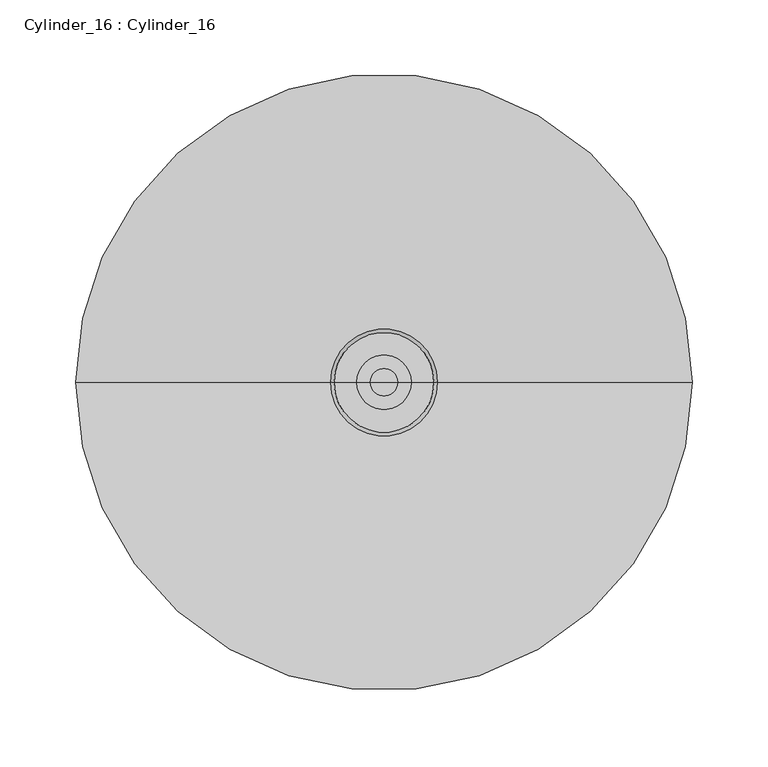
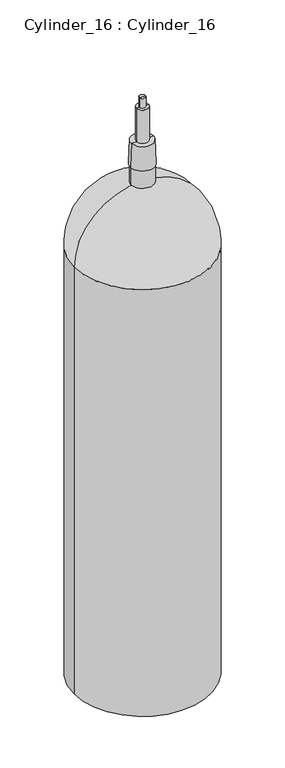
"""IFC4 building model written with IfcOpenShell, lengths in millimetres: alarm geometry, Cylinder_16 : Cylinder_16."""

import ifcopenshell
import ifcopenshell.guid

model = None  # the IFC model being written
_history = None  # IfcOwnerHistory: only IFC2X3 demands one
_inside = {}  # id of a spatial element -> (the spatial element, [elements in it])
_under = {}  # id of a project, library or spatial element -> (it, [spatial elements below it])
_declared = {}  # id of a project -> (the project, [libraries it declares])
_typed = {}  # id of a type object -> (the type object, [elements of that type])
_made_of = {}  # id of a material, layer set ... -> (it, [elements and type objects made of it])


def new_model(schema):
    """Start an empty IFC model of exactly this schema.

    Asked for "IFC4X3", IfcOpenShell would pick the latest addendum, in which some entities
    have other attributes; the version numbers below select the first issue.
    IFC2X3 requires an IfcOwnerHistory on every rooted entity: one is made here for all.
    """
    global model, _history
    if schema == "IFC4X3":
        model = ifcopenshell.file(schema_version=(4, 3, 0, 0))
    else:
        model = ifcopenshell.file(schema=schema)
    _inside.clear()
    _under.clear()
    _declared.clear()
    _typed.clear()
    _made_of.clear()
    _history = None
    if model.schema == "IFC2X3":
        org = make("IfcOrganization", Name="unknown")
        user = make(
            "IfcPersonAndOrganization",
            ThePerson=make("IfcPerson", FamilyName="unknown"),
            TheOrganization=org,
        )
        app = make(
            "IfcApplication",
            ApplicationDeveloper=org,
            Version="unknown",
            ApplicationFullName="unknown",
            ApplicationIdentifier="unknown",
        )
        _history = make(
            "IfcOwnerHistory",
            OwningUser=user,
            OwningApplication=app,
            ChangeAction="ADDED",
            CreationDate=0,
        )
    return model


def make(cls, **values):
    """One entity of the class cls with the attributes given. An attribute that is None is left unset."""
    return model.create_entity(
        cls, **{name: value for name, value in values.items() if value is not None}
    )


def rooted(cls, **values):
    """An entity with a GlobalId (a new one), such as an element, a storey or a relation."""
    return make(cls, GlobalId=ifcopenshell.guid.new(), OwnerHistory=_history, **values)


def si_unit(unit_type, name, prefix=None):
    """IfcSIUnit, for example si_unit("LENGTHUNIT", "METRE", prefix="MILLI")."""
    return make("IfcSIUnit", UnitType=unit_type, Prefix=prefix, Name=name)


def assignment(units):
    """IfcUnitAssignment: the units of a project."""
    return None if units is None else make("IfcUnitAssignment", Units=units)


def point(xyz):
    """IfcCartesianPoint."""
    return None if xyz is None else make("IfcCartesianPoint", Coordinates=xyz)


def direction(xyz):
    """IfcDirection."""
    return None if xyz is None else make("IfcDirection", DirectionRatios=xyz)


def frame(location, z_axis=None, x_axis=None):
    """IfcAxis2Placement3D, a coordinate frame: its origin and axes. An axis left out is left unset."""
    return make(
        "IfcAxis2Placement3D",
        Location=point(location),
        Axis=direction(z_axis),
        RefDirection=direction(x_axis),
    )


def origin():
    """The frame at (0, 0, 0) with its axes left unset."""
    return frame((0.0, 0.0, 0.0))


def place(relative_to, where):
    """IfcLocalPlacement: puts the frame where relative to a parent placement (None: the world)."""
    return make(
        "IfcLocalPlacement", PlacementRelTo=relative_to, RelativePlacement=where
    )


def context(
    kind, dimensions, precision=None, world=None, true_north=None, identifier=None
):
    """IfcGeometricRepresentationContext, for example the 3D "Model" context."""
    return make(
        "IfcGeometricRepresentationContext",
        ContextIdentifier=identifier,
        ContextType=kind,
        CoordinateSpaceDimension=dimensions,
        Precision=precision,
        WorldCoordinateSystem=world,
        TrueNorth=true_north,
    )


def project(units=None, contexts=None):
    """IfcProject with its units and contexts."""
    return rooted(
        "IfcProject",
        Name="project",
        RepresentationContexts=contexts,
        UnitsInContext=assignment(units),
    )


def spatial(cls, under=None, at=None, **own):
    """A site, building, storey or space (cls), placed at a placement, below another one or the project."""
    s = rooted(cls, ObjectPlacement=at, **own)
    if under is not None:
        _under.setdefault(under.id(), (under, []))[1].append(s)
    return s


def polyline(points):
    """IfcPolyline through the points."""
    return make("IfcPolyline", Points=[point(p) for p in points])


def circle_curve(where, radius):
    """IfcCircle in the frame where."""
    return make("IfcCircle", Position=where, Radius=radius)


def ellipse_curve(where, semi_axis1, semi_axis2):
    """IfcEllipse in the frame where."""
    return make(
        "IfcEllipse", Position=where, SemiAxis1=semi_axis1, SemiAxis2=semi_axis2
    )


def trimmed(basis, trim1, trim2, sense, master):
    """IfcTrimmedCurve: the piece of a basis curve between two trims."""
    return make(
        "IfcTrimmedCurve",
        BasisCurve=basis,
        Trim1=trim1,
        Trim2=trim2,
        SenseAgreement=sense,
        MasterRepresentation=master,
    )


def shape(context_of_items, identifier, shape_type, items):
    """IfcShapeRepresentation: the items that make up one representation, for example the "Body"."""
    return make(
        "IfcShapeRepresentation",
        ContextOfItems=context_of_items,
        RepresentationIdentifier=identifier,
        RepresentationType=shape_type,
        Items=items,
    )


def source(mapping_origin, context_of_items, identifier, shape_type, items):
    """IfcRepresentationMap: a shape defined once, which mapped items show again and again."""
    return make(
        "IfcRepresentationMap",
        MappingOrigin=mapping_origin,
        MappedRepresentation=shape(context_of_items, identifier, shape_type, items),
    )


def transform(
    local_origin,
    x_axis=None,
    y_axis=None,
    z_axis=None,
    scale=None,
    scale2=None,
    scale3=None,
    uniform=True,
):
    """IfcCartesianTransformationOperator3D, or its non-uniform kind. x_axis, y_axis, z_axis: its Axis1, 2, 3."""
    if uniform:
        return make(
            "IfcCartesianTransformationOperator3D",
            Axis1=direction(x_axis),
            Axis2=direction(y_axis),
            LocalOrigin=point(local_origin),
            Scale=scale,
            Axis3=direction(z_axis),
        )
    return make(
        "IfcCartesianTransformationOperator3DnonUniform",
        Axis1=direction(x_axis),
        Axis2=direction(y_axis),
        LocalOrigin=point(local_origin),
        Scale=scale,
        Axis3=direction(z_axis),
        Scale2=scale2,
        Scale3=scale3,
    )


def mapped(mapping_source, mapping_target):
    """IfcMappedItem: shows the shape of a source again, moved by a transform."""
    return make(
        "IfcMappedItem", MappingSource=mapping_source, MappingTarget=mapping_target
    )


def made_of(thing, what):
    """Note that an element or type object is made of a material, layer set ...; save() writes the relation."""
    if what is not None:
        _made_of.setdefault(what.id(), (what, []))[1].append(thing)
    return thing


def element(
    cls,
    number,
    at=None,
    inside=None,
    cuts=None,
    type_object=None,
    material=None,
    context=None,
    identifier="Body",
    shape_type=None,
    held_by="IfcProductDefinitionShape",
    body=None,
    shapes=None,
    **own,
):
    """One element of the class cls, such as IfcWall. Its Tag is "e" and its number.

    at: its placement. inside: the storey or other place that contains it. cuts: it is an
    opening in that element (IfcRelVoidsElement). A single representation is given by context,
    identifier, shape_type and body (its items); several are given by shapes. held_by: the class
    of the entity that holds the representations. save() writes the other relations.
    """
    e = rooted(cls, Tag="e%d" % number, ObjectPlacement=at, **own)
    if body is not None:
        shapes = [shape(context, identifier, shape_type, body)]
    if shapes is not None:
        e.Representation = make(held_by, Representations=shapes)
    if inside is not None:
        _inside.setdefault(inside.id(), (inside, []))[1].append(e)
    if cuts is not None:
        rooted(
            "IfcRelVoidsElement", RelatingBuildingElement=cuts, RelatedOpeningElement=e
        )
    if type_object is not None:
        _typed.setdefault(type_object.id(), (type_object, []))[1].append(e)
    return made_of(e, material)


def aggregate(whole, parts):
    """IfcRelAggregates: a whole, such as a stair, and the parts it consists of."""
    return rooted("IfcRelAggregates", RelatingObject=whole, RelatedObjects=parts)


def save(model, path):
    """Write the relations noted so far, then the file.

    IfcRelAggregates (storeys below a building ...), IfcRelContainedInSpatialStructure (elements
    in a storey), IfcRelDefinesByType, IfcRelAssociatesMaterial and IfcRelDeclares: one each for
    every whole, place, type object, material and project.
    """
    for whole, parts in _under.values():
        aggregate(whole, parts)
    for where, things in _inside.values():
        rooted(
            "IfcRelContainedInSpatialStructure",
            RelatedElements=things,
            RelatingStructure=where,
        )
    for kind, things in _typed.values():
        rooted("IfcRelDefinesByType", RelatedObjects=things, RelatingType=kind)
    for what, things in _made_of.values():
        rooted("IfcRelAssociatesMaterial", RelatedObjects=things, RelatingMaterial=what)
    for by, libraries in _declared.values():
        rooted("IfcRelDeclares", RelatingContext=by, RelatedDefinitions=libraries)
    model.write(path)


def plane_surface(at):
    """IfcPlane: the flat surface through the origin of the frame at, square to its z axis."""
    return make("IfcPlane", Position=at)


def cylinder_surface(at, radius):
    """IfcCylindricalSurface: all points at the distance radius from the z axis of the frame at."""
    return make("IfcCylindricalSurface", Position=at, Radius=radius)


def revolved_surface(curve, axis_point, axis_direction):
    """IfcSurfaceOfRevolution: the curve turned about the line through axis_point along axis_direction."""
    return make(
        "IfcSurfaceOfRevolution",
        SweptCurve=make("IfcArbitraryOpenProfileDef", ProfileType="CURVE", Curve=curve),
        AxisPosition=make("IfcAxis1Placement", Location=point(axis_point), Axis=direction(axis_direction)),
    )


def advanced_brep(points, edges, surfaces, faces):
    """IfcAdvancedBrep: a solid bounded by faces that lie on surfaces and meet in shared edges.

    An edge is (start, end): straight between two places in points (the first is 0);
    or (start, end, curve); or (start, end, curve, False) where it runs against its curve.
    A face is (place in surfaces, loops), or (place, loops, False) where it looks against
    its surface's normal. A loop lists edges by number (the first is 1), with a minus sign
    where the edge is run from its end to its start. The first loop is the outer one.
    """
    corners = [point(p) for p in points]
    vertices = [make("IfcVertexPoint", VertexGeometry=c) for c in corners]
    made = []
    for start, end, *more in edges:
        made.append(
            make(
                "IfcEdgeCurve",
                EdgeStart=vertices[start],
                EdgeEnd=vertices[end],
                EdgeGeometry=more[0] if more else make("IfcPolyline", Points=[corners[start], corners[end]]),
                SameSense=more[1] if len(more) > 1 else True,
            )
        )
    hull = []
    for where, loops, *sense in faces:
        bounds = []
        for j, loop in enumerate(loops):
            ring = [make("IfcOrientedEdge", EdgeElement=made[abs(k) - 1], Orientation=k > 0) for k in loop]
            bounds.append(
                make(
                    "IfcFaceOuterBound" if j == 0 else "IfcFaceBound",
                    Bound=make("IfcEdgeLoop", EdgeList=ring),
                    Orientation=True,
                )
            )
        hull.append(make("IfcAdvancedFace", Bounds=bounds, FaceSurface=surfaces[where], SameSense=sense[0] if sense else True))
    return make("IfcAdvancedBrep", Outer=make("IfcClosedShell", CfsFaces=hull))


def cylinder_16_cylinder_16_0544394a(model_context):
    return source(origin(), model_context, "Body", "AdvancedBrep", [
        advanced_brep(
        [(9.0219829, 0.0, 1773.6797527), (-9.0219829, 0.0, 1773.6797527), (-9.0219829, 0.0, 1803.7871447), (9.0219829, 0.0, 1803.7871447), (17.9261315, 0.0, 1773.6797527), (-17.9261315, 0.0, 1773.6797527), (17.9261315, 0.0, 1669.0464047), (-17.9261315, 0.0, 1669.0464047), (32.9524445, 0.0, 1669.0464047), (-32.9524445, 0.0, 1669.0464047), (35.2648942, 0.0, 1594.5650907), (-35.2648942, 0.0, 1594.5650907), (33.1140302, 0.0, 1594.5650907), (-33.1140302, 0.0, 1594.5650907), (33.1817509, 0.0, 1538.8781327), (-33.1817509, 0.0, 1538.8781327), (0.0, 0.0, 1538.8781327), (0.0, 0.0, 1803.7871447)],
        [
            (0, 1, circle_curve(frame((0.0, 0.0, 1773.6797527), z_axis=(0.0, 0.0, 1.0), x_axis=(-1.0, 0.0, 0.0)), 9.0219829)),
            (1, 2),
            (2, 3, circle_curve(frame((0.0, 0.0, 1803.7871447), z_axis=(0.0, 0.0, -1.0), x_axis=(-1.0, 0.0, 0.0)), 9.0219829)),
            (3, 0),
            (1, 0, circle_curve(frame((0.0, 0.0, 1773.6797527), z_axis=(0.0, 0.0, 1.0), x_axis=(-1.0, 0.0, 0.0)), 9.0219829)),
            (3, 2, circle_curve(frame((0.0, 0.0, 1803.7871447), z_axis=(0.0, 0.0, -1.0), x_axis=(-1.0, 0.0, 0.0)), 9.0219829)),
            (4, 5, circle_curve(frame((0.0, 0.0, 1773.6797527), z_axis=(0.0, 0.0, 1.0), x_axis=(-1.0, 0.0, 0.0)), 17.9261315)),
            (5, 1),
            (0, 4),
            (5, 4, circle_curve(frame((0.0, 0.0, 1773.6797527), z_axis=(0.0, 0.0, 1.0), x_axis=(-1.0, 0.0, 0.0)), 17.9261315)),
            (6, 7, circle_curve(frame((0.0, 0.0, 1669.0464047), z_axis=(0.0, 0.0, 1.0), x_axis=(-1.0, 0.0, 0.0)), 17.9261315)),
            (7, 5),
            (4, 6),
            (7, 6, circle_curve(frame((0.0, 0.0, 1669.0464047), z_axis=(0.0, 0.0, 1.0), x_axis=(-1.0, 0.0, 0.0)), 17.9261315)),
            (8, 9, circle_curve(frame((0.0, 0.0, 1669.0464047), z_axis=(0.0, 0.0, 1.0), x_axis=(-1.0, 0.0, 0.0)), 32.9524445)),
            (9, 7),
            (6, 8),
            (9, 8, circle_curve(frame((0.0, 0.0, 1669.0464047), z_axis=(0.0, 0.0, 1.0), x_axis=(-1.0, 0.0, 0.0)), 32.9524445)),
            (10, 11, circle_curve(frame((0.0, 0.0, 1594.5650907), z_axis=(0.0, 0.0, 1.0), x_axis=(-1.0, 0.0, 0.0)), 35.2648942)),
            (11, 9),
            (8, 10),
            (11, 10, circle_curve(frame((0.0, 0.0, 1594.5650907), z_axis=(0.0, 0.0, 1.0), x_axis=(-1.0, 0.0, 0.0)), 35.2648942)),
            (12, 13, circle_curve(frame((0.0, 0.0, 1594.5650907), z_axis=(0.0, 0.0, 1.0), x_axis=(-1.0, 0.0, 0.0)), 33.1140302)),
            (13, 11),
            (10, 12),
            (13, 12, circle_curve(frame((0.0, 0.0, 1594.5650907), z_axis=(0.0, 0.0, 1.0), x_axis=(-1.0, 0.0, 0.0)), 33.1140302)),
            (14, 15, circle_curve(frame((0.0, 0.0, 1538.8781327), z_axis=(0.0, 0.0, 1.0), x_axis=(-1.0, 0.0, 0.0)), 33.1817509)),
            (15, 13),
            (12, 14),
            (15, 14, circle_curve(frame((0.0, 0.0, 1538.8781327), z_axis=(0.0, 0.0, 1.0), x_axis=(-1.0, 0.0, 0.0)), 33.1817509)),
            (16, 15),
            (14, 16),
            (2, 17),
            (17, 3),
        ],
        [
            cylinder_surface(frame((0.0, 0.0, 1881.8868055), z_axis=(0.0, 0.0, -1.0), x_axis=(-1.0, 0.0, 0.0)), 9.0219829),
            plane_surface(frame((0.0, 0.0, 1773.6797527), z_axis=(0.0, 0.0, 1.0), x_axis=(-1.0, 0.0, 0.0))),
            cylinder_surface(frame((0.0, 0.0, 1881.8868055), z_axis=(0.0, 0.0, -1.0), x_axis=(-1.0, 0.0, 0.0)), 17.9261315),
            plane_surface(frame((0.0, 0.0, 1669.0464047), z_axis=(0.0, 0.0, 1.0), x_axis=(-1.0, 0.0, 0.0))),
            revolved_surface(polyline([(-32.9524445, 0.0, 1669.0464047), (-35.2648942, 0.0, 1594.5650907)]), (0.0, 0.0, 1881.8868055), (0.0, 0.0, -1.0)),
            plane_surface(frame((0.0, 0.0, 1594.5650907), z_axis=(0.0, 0.0, -1.0), x_axis=(-1.0, 0.0, 0.0))),
            cylinder_surface(frame((0.0, 0.0, 1881.8868055), z_axis=(0.0, 0.0, -1.0), x_axis=(-1.0, 0.0, 0.0)), 33.1817509),
            plane_surface(frame((0.0, 0.0, 1538.8781327), z_axis=(0.0, 0.0, -1.0), x_axis=(-1.0, 0.0, 0.0))),
            plane_surface(frame((0.0, 0.0, 1803.7871447), z_axis=(0.0, 0.0, 1.0), x_axis=(-1.0, 0.0, 0.0))),
        ],
        [
            (0, [[1, 2, 3, 4]]),
            (0, [[5, -4, 6, -2]]),
            (1, [[7, 8, -1, 9]]),
            (1, [[10, -9, -5, -8]]),
            (2, [[11, 12, -7, 13]]),
            (2, [[14, -13, -10, -12]]),
            (3, [[15, 16, -11, 17]]),
            (3, [[18, -17, -14, -16]]),
            (4, [[19, 20, -15, 21]]),
            (4, [[22, -21, -18, -20]]),
            (5, [[23, 24, -19, 25]]),
            (5, [[26, -25, -22, -24]]),
            (6, [[27, 28, -23, 29]]),
            (6, [[30, -29, -26, -28]]),
            (7, [[31, -27, 32]]),
            (7, [[-32, -30, -31]]),
            (8, [[-3, 33, 34]]),
            (8, [[-6, -34, -33]]),
        ],
    ),
        advanced_brep(
        [(203.2, 0.0, 0.0), (-203.2, 0.0, 0.0), (-203.2, 0.0, 1340.0), (203.2, 0.0, 1340.0), (0.0, 0.0, 0.0), (0.0, 0.0, 1538.8781327)],
        [
            (0, 1, circle_curve(frame((0.0, 0.0, 0.0), z_axis=(0.0, 0.0, 1.0), x_axis=(-1.0, 0.0, 0.0)), 203.2)),
            (1, 2),
            (2, 3, circle_curve(frame((0.0, 0.0, 1340.0), z_axis=(0.0, 0.0, -1.0), x_axis=(-1.0, 0.0, 0.0)), 203.2)),
            (3, 0),
            (1, 0, circle_curve(frame((0.0, 0.0, 0.0), z_axis=(0.0, 0.0, 1.0), x_axis=(-1.0, 0.0, 0.0)), 203.2)),
            (3, 2, circle_curve(frame((0.0, 0.0, 1340.0), z_axis=(0.0, 0.0, -1.0), x_axis=(-1.0, 0.0, 0.0)), 203.2)),
            (4, 1),
            (0, 4),
            (2, 5, circle_curve(frame((-4.2759063, 0.0, 1340.0), z_axis=(0.0, 1.0, 0.0), x_axis=(1.0, 0.0, 0.0)), 198.9240937)),
            (5, 3, circle_curve(frame((4.2759063, 0.0, 1340.0), z_axis=(0.0, 1.0, 0.0), x_axis=(-1.0, 0.0, 0.0)), 198.9240937)),
        ],
        [
            cylinder_surface(frame((0.0, 0.0, 1538.8781327), z_axis=(0.0, 0.0, -1.0), x_axis=(-1.0, 0.0, 0.0)), 203.2),
            plane_surface(frame((0.0, 0.0, 0.0), z_axis=(0.0, 0.0, -1.0), x_axis=(-1.0, 0.0, 0.0))),
            revolved_surface(trimmed(ellipse_curve(frame((-4.2759063, 0.0, 1340.0), z_axis=(0.0, -1.0, 0.0), x_axis=(1.0, 0.0, 0.0)), 198.9240937, 198.9240937), [point((0.0, 0.0, 1538.8781327))], [point((-203.2, 0.0, 1340.0))], True, "CARTESIAN"), (0.0, 0.0, 1538.8781327), (0.0, 0.0, -1.0)),
        ],
        [
            (0, [[1, 2, 3, 4]]),
            (0, [[5, -4, 6, -2]]),
            (1, [[7, -1, 8]]),
            (1, [[-8, -5, -7]]),
            (2, [[-3, 9, 10]]),
            (2, [[-6, -10, -9]]),
        ],
    ),
    ])


if __name__ == "__main__":
    model = new_model("IFC4")
    model_context = context("Model", 3, world=origin())
    ifc_project = project(units=[si_unit("LENGTHUNIT", "METRE", prefix="MILLI")], contexts=[model_context])
    site = spatial("IfcSite", under=ifc_project)
    building = spatial("IfcBuilding", under=site)
    placement = place(None, origin())
    cylinder_16_cylinder_16_shape = cylinder_16_cylinder_16_0544394a(model_context)
    element("IfcAlarm", 1, ObjectType="Cylinder_16 : Cylinder_16", at=placement, inside=building, context=model_context, shape_type="MappedRepresentation", body=[
        mapped(cylinder_16_cylinder_16_shape, transform((0.0, 0.0, 0.0), x_axis=(1.0, 0.0, 0.0), y_axis=(0.0, 1.0, 0.0), z_axis=(0.0, 0.0, 1.0))),
    ])
    save(model, "model.ifc")
